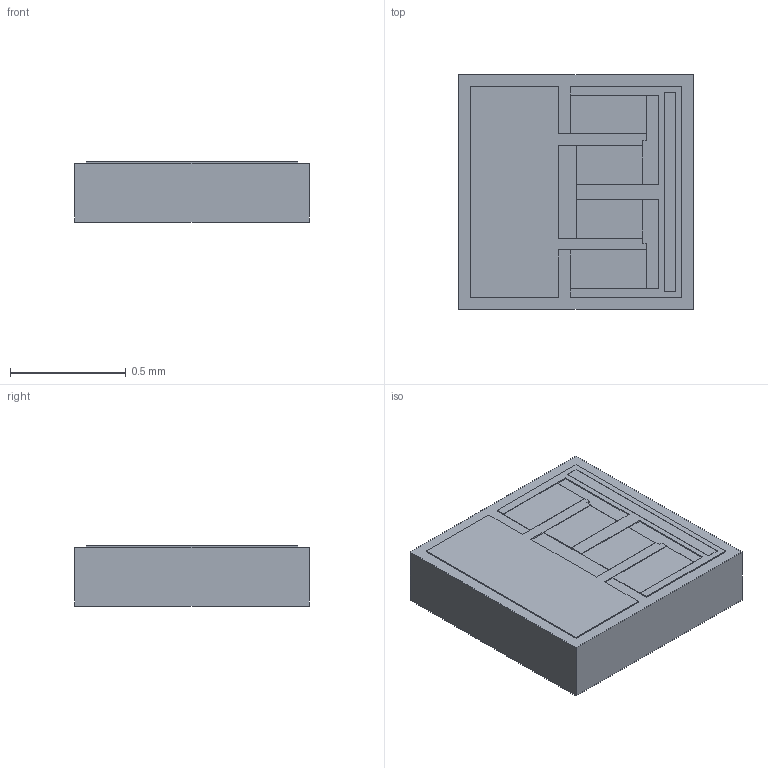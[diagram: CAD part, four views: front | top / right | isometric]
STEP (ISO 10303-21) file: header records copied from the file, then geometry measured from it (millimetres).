
FILE_DESCRIPTION(/* description */ (''),/* implementation_level */ '2;1');
FILE_NAME(/* name */ 'C:\Users\jlima\Desktop\96-0403\96-0403-01A-02A-0402-03A 04-06-18\3D-96-403\3D-96-403.stp',/* time_stamp */ '2019-07-19T08:54:42-04:00',/* author */ ('JLima'),/* organization */ (''),/* preprocessor_version */ 'ST-DEVELOPER v17',/* originating_system */ 'Autodesk Inventor 2019',/* authorisation */ '');
FILE_SCHEMA (('AUTOMOTIVE_DESIGN { 1 0 10303 214 3 1 1 }'));
Length unit declared in the file: inch
Products named in the file (1): 3D-96-403
Bounding box: 1.02 x 1.02 x 0.26 mm (x, y, z)
Volume: 0.3 mm3; surface area: 3.1 mm2
Topology: 1 solids, 1 shells, 48 faces, 132 edges, 88 vertices
Faces by surface type: plane 48
Entity records: 1598 total; most frequent: CARTESIAN_POINT 269, ORIENTED_EDGE 264, DIRECTION 230, LINE 132, VECTOR 132, EDGE_CURVE 132, VERTEX_POINT 88, EDGE_LOOP 50
